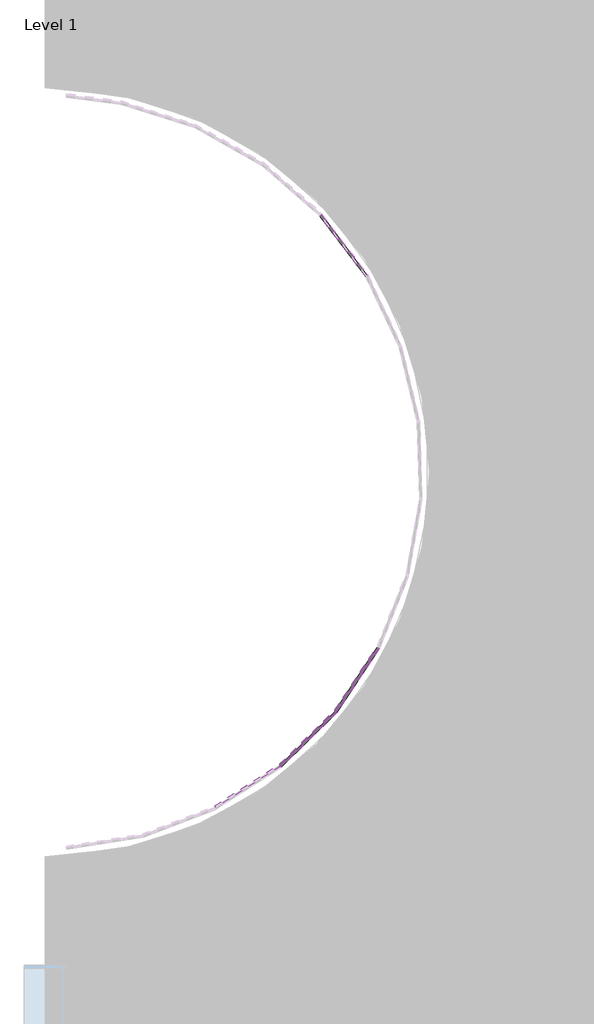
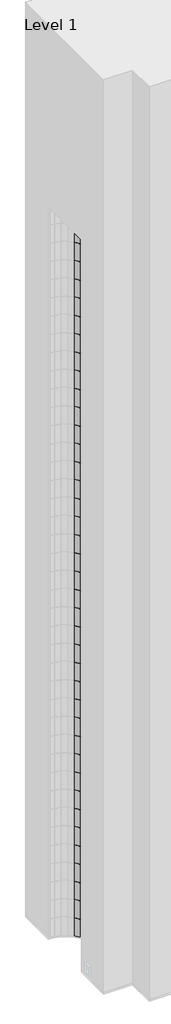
# One storey, part 3 of 20: 122 plates.
"""IFC4 building model written with IfcOpenShell, lengths in millimetres."""

from ifc_helpers import new_model, si_unit, origin, place, context, project, spatial, transform, mapped, element, save
from components import system_panel_glazed_d77d1ebf

model = new_model("IFC4")

# Units and contexts
model_context = context("Model", 3, world=origin())
ifc_project = project(units=[si_unit("LENGTHUNIT", "METRE", prefix="MILLI")], contexts=[model_context])

# Site, building, storey
site = spatial("IfcSite", under=ifc_project)
building = spatial("IfcBuilding", under=site)
storey = spatial("IfcBuildingStorey", under=building, Name="Level 1", Elevation=0.0)

# Plates
placement = place(None, origin())
system_panel_glazed_shape = system_panel_glazed_d77d1ebf(model_context)
element("IfcPlate", 1, ObjectType="System Panel : Glazed", at=placement, inside=storey, context=model_context, shape_type="MappedRepresentation", body=[
    mapped(system_panel_glazed_shape, transform((-8194.3790499, -3518.0259599, 0.0), x_axis=(-0.6035123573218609, 0.7973536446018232, 0.0), y_axis=(-0.7973536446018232, -0.6035123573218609, 0.0), z_axis=(0.0, 0.0, 1.0))),
])
element("IfcPlate", 2, ObjectType="System Panel : Glazed", at=placement, inside=storey, context=model_context, shape_type="MappedRepresentation", body=[
    mapped(system_panel_glazed_shape, transform((-8194.3790499, -3518.0259599, 3048.0), x_axis=(-0.6035123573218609, 0.7973536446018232, 0.0), y_axis=(-0.7973536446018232, -0.6035123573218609, 0.0), z_axis=(0.0, 0.0, 1.0))),
])
element("IfcPlate", 3, ObjectType="System Panel : Glazed", at=placement, inside=storey, context=model_context, shape_type="MappedRepresentation", body=[
    mapped(system_panel_glazed_shape, transform((-8194.3790499, -3518.0259599, 6096.0), x_axis=(-0.6035123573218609, 0.7973536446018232, 0.0), y_axis=(-0.7973536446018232, -0.6035123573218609, 0.0), z_axis=(0.0, 0.0, 1.0))),
])
element("IfcPlate", 4, ObjectType="System Panel : Glazed", at=placement, inside=storey, context=model_context, shape_type="MappedRepresentation", body=[
    mapped(system_panel_glazed_shape, transform((-8194.3790499, -3518.0259599, 9144.0), x_axis=(-0.6035123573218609, 0.7973536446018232, 0.0), y_axis=(-0.7973536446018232, -0.6035123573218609, 0.0), z_axis=(0.0, 0.0, 1.0))),
])
element("IfcPlate", 5, ObjectType="System Panel : Glazed", at=placement, inside=storey, context=model_context, shape_type="MappedRepresentation", body=[
    mapped(system_panel_glazed_shape, transform((-8194.3790499, -3518.0259599, 12192.0), x_axis=(-0.6035123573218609, 0.7973536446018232, 0.0), y_axis=(-0.7973536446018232, -0.6035123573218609, 0.0), z_axis=(0.0, 0.0, 1.0))),
])
element("IfcPlate", 6, ObjectType="System Panel : Glazed", at=placement, inside=storey, context=model_context, shape_type="MappedRepresentation", body=[
    mapped(system_panel_glazed_shape, transform((-8194.3790499, -3518.0259599, 15240.0), x_axis=(-0.6035123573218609, 0.7973536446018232, 0.0), y_axis=(-0.7973536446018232, -0.6035123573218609, 0.0), z_axis=(0.0, 0.0, 1.0))),
])
element("IfcPlate", 7, ObjectType="System Panel : Glazed", at=placement, inside=storey, context=model_context, shape_type="MappedRepresentation", body=[
    mapped(system_panel_glazed_shape, transform((-8194.3790499, -3518.0259599, 18288.0), x_axis=(-0.603512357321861, 0.7973536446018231, 0.0), y_axis=(-0.7973536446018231, -0.603512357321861, 0.0), z_axis=(0.0, 0.0, 1.0))),
])
element("IfcPlate", 8, ObjectType="System Panel : Glazed", at=placement, inside=storey, context=model_context, shape_type="MappedRepresentation", body=[
    mapped(system_panel_glazed_shape, transform((-8194.3790499, -3518.0259599, 21336.0), x_axis=(-0.6035123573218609, 0.7973536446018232, 0.0), y_axis=(-0.7973536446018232, -0.6035123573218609, 0.0), z_axis=(0.0, 0.0, 1.0))),
])
element("IfcPlate", 9, ObjectType="System Panel : Glazed", at=placement, inside=storey, context=model_context, shape_type="MappedRepresentation", body=[
    mapped(system_panel_glazed_shape, transform((-8194.3790499, -3518.0259599, 24384.0), x_axis=(-0.6035123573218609, 0.7973536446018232, 0.0), y_axis=(-0.7973536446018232, -0.6035123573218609, 0.0), z_axis=(0.0, 0.0, 1.0))),
])
element("IfcPlate", 10, ObjectType="System Panel : Glazed", at=placement, inside=storey, context=model_context, shape_type="MappedRepresentation", body=[
    mapped(system_panel_glazed_shape, transform((-8194.3790499, -3518.0259599, 27432.0), x_axis=(-0.6035123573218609, 0.7973536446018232, 0.0), y_axis=(-0.7973536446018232, -0.6035123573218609, 0.0), z_axis=(0.0, 0.0, 1.0))),
])
element("IfcPlate", 11, ObjectType="System Panel : Glazed", at=placement, inside=storey, context=model_context, shape_type="MappedRepresentation", body=[
    mapped(system_panel_glazed_shape, transform((-8194.3790499, -3518.0259599, 30480.0), x_axis=(-0.6035123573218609, 0.7973536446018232, 0.0), y_axis=(-0.7973536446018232, -0.6035123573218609, 0.0), z_axis=(0.0, 0.0, 1.0))),
])
element("IfcPlate", 12, ObjectType="System Panel : Glazed", at=placement, inside=storey, context=model_context, shape_type="MappedRepresentation", body=[
    mapped(system_panel_glazed_shape, transform((-8194.3790499, -3518.0259599, 33528.0), x_axis=(-0.6035123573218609, 0.7973536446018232, 0.0), y_axis=(-0.7973536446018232, -0.6035123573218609, 0.0), z_axis=(0.0, 0.0, 1.0))),
])
element("IfcPlate", 13, ObjectType="System Panel : Glazed", at=placement, inside=storey, context=model_context, shape_type="MappedRepresentation", body=[
    mapped(system_panel_glazed_shape, transform((-8194.3790499, -3518.0259599, 36576.0), x_axis=(-0.6035123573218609, 0.7973536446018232, 0.0), y_axis=(-0.7973536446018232, -0.6035123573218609, 0.0), z_axis=(0.0, 0.0, 1.0))),
])
element("IfcPlate", 14, ObjectType="System Panel : Glazed", at=placement, inside=storey, context=model_context, shape_type="MappedRepresentation", body=[
    mapped(system_panel_glazed_shape, transform((-8194.3790499, -3518.0259599, 39624.0), x_axis=(-0.6035123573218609, 0.7973536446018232, 0.0), y_axis=(-0.7973536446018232, -0.6035123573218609, 0.0), z_axis=(0.0, 0.0, 1.0))),
])
element("IfcPlate", 15, ObjectType="System Panel : Glazed", at=placement, inside=storey, context=model_context, shape_type="MappedRepresentation", body=[
    mapped(system_panel_glazed_shape, transform((-8194.3790499, -3518.0259599, 42672.0), x_axis=(-0.6035123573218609, 0.7973536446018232, 0.0), y_axis=(-0.7973536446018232, -0.6035123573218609, 0.0), z_axis=(0.0, 0.0, 1.0))),
])
element("IfcPlate", 16, ObjectType="System Panel : Glazed", at=placement, inside=storey, context=model_context, shape_type="MappedRepresentation", body=[
    mapped(system_panel_glazed_shape, transform((-8194.3790499, -3518.0259599, 45720.0), x_axis=(-0.6035123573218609, 0.7973536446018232, 0.0), y_axis=(-0.7973536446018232, -0.6035123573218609, 0.0), z_axis=(0.0, 0.0, 1.0))),
])
element("IfcPlate", 17, ObjectType="System Panel : Glazed", at=placement, inside=storey, context=model_context, shape_type="MappedRepresentation", body=[
    mapped(system_panel_glazed_shape, transform((-8194.3790499, -3518.0259599, 48768.0), x_axis=(-0.6035123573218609, 0.7973536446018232, 0.0), y_axis=(-0.7973536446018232, -0.6035123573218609, 0.0), z_axis=(0.0, 0.0, 1.0))),
])
element("IfcPlate", 18, ObjectType="System Panel : Glazed", at=placement, inside=storey, context=model_context, shape_type="MappedRepresentation", body=[
    mapped(system_panel_glazed_shape, transform((-8194.3790499, -3518.0259599, 51816.0), x_axis=(-0.6035123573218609, 0.7973536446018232, 0.0), y_axis=(-0.7973536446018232, -0.6035123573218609, 0.0), z_axis=(0.0, 0.0, 1.0))),
])
element("IfcPlate", 19, ObjectType="System Panel : Glazed", at=placement, inside=storey, context=model_context, shape_type="MappedRepresentation", body=[
    mapped(system_panel_glazed_shape, transform((-8194.3790499, -3518.0259599, 54864.0), x_axis=(-0.6035123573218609, 0.7973536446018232, 0.0), y_axis=(-0.7973536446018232, -0.6035123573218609, 0.0), z_axis=(0.0, 0.0, 1.0))),
])
element("IfcPlate", 20, ObjectType="System Panel : Glazed", at=placement, inside=storey, context=model_context, shape_type="MappedRepresentation", body=[
    mapped(system_panel_glazed_shape, transform((-8194.3790499, -3518.0259599, 57912.0), x_axis=(-0.6035123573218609, 0.7973536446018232, 0.0), y_axis=(-0.7973536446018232, -0.6035123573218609, 0.0), z_axis=(0.0, 0.0, 1.0))),
])
element("IfcPlate", 21, ObjectType="System Panel : Glazed", at=placement, inside=storey, context=model_context, shape_type="MappedRepresentation", body=[
    mapped(system_panel_glazed_shape, transform((-8194.3790499, -3518.0259599, 60960.0), x_axis=(-0.6035123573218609, 0.7973536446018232, 0.0), y_axis=(-0.7973536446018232, -0.6035123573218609, 0.0), z_axis=(0.0, 0.0, 1.0))),
])
element("IfcPlate", 22, ObjectType="System Panel : Glazed", at=placement, inside=storey, context=model_context, shape_type="MappedRepresentation", body=[
    mapped(system_panel_glazed_shape, transform((-8194.3790499, -3518.0259599, 64008.0), x_axis=(-0.6035123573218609, 0.7973536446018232, 0.0), y_axis=(-0.7973536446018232, -0.6035123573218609, 0.0), z_axis=(0.0, 0.0, 1.0))),
])
element("IfcPlate", 23, ObjectType="System Panel : Glazed", at=placement, inside=storey, context=model_context, shape_type="MappedRepresentation", body=[
    mapped(system_panel_glazed_shape, transform((-8194.3790499, -3518.0259599, 67056.0), x_axis=(-0.6035123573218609, 0.7973536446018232, 0.0), y_axis=(-0.7973536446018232, -0.6035123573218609, 0.0), z_axis=(0.0, 0.0, 1.0))),
])
element("IfcPlate", 24, ObjectType="System Panel : Glazed", at=placement, inside=storey, context=model_context, shape_type="MappedRepresentation", body=[
    mapped(system_panel_glazed_shape, transform((-8194.3790499, -3518.0259599, 70104.0), x_axis=(-0.6035123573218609, 0.7973536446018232, 0.0), y_axis=(-0.7973536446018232, -0.6035123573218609, 0.0), z_axis=(0.0, 0.0, 1.0))),
])
element("IfcPlate", 25, ObjectType="System Panel : Glazed", at=placement, inside=storey, context=model_context, shape_type="MappedRepresentation", body=[
    mapped(system_panel_glazed_shape, transform((-8194.3790499, -3518.0259599, 73152.0), x_axis=(-0.6035123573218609, 0.7973536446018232, 0.0), y_axis=(-0.7973536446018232, -0.6035123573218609, 0.0), z_axis=(0.0, 0.0, 1.0))),
])
element("IfcPlate", 26, ObjectType="System Panel : Glazed", at=placement, inside=storey, context=model_context, shape_type="MappedRepresentation", body=[
    mapped(system_panel_glazed_shape, transform((-8194.3790499, -3518.0259599, 76200.0), x_axis=(-0.6035123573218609, 0.7973536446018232, 0.0), y_axis=(-0.7973536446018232, -0.6035123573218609, 0.0), z_axis=(0.0, 0.0, 1.0))),
])
element("IfcPlate", 27, ObjectType="System Panel : Glazed", at=placement, inside=storey, context=model_context, shape_type="MappedRepresentation", body=[
    mapped(system_panel_glazed_shape, transform((-8194.3790499, -3518.0259599, 79248.0), x_axis=(-0.6035123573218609, 0.7973536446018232, 0.0), y_axis=(-0.7973536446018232, -0.6035123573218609, 0.0), z_axis=(0.0, 0.0, 1.0))),
])
element("IfcPlate", 28, ObjectType="System Panel : Glazed", at=placement, inside=storey, context=model_context, shape_type="MappedRepresentation", body=[
    mapped(system_panel_glazed_shape, transform((-8194.3790499, -3518.0259599, 82296.0), x_axis=(-0.6035123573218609, 0.7973536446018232, 0.0), y_axis=(-0.7973536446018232, -0.6035123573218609, 0.0), z_axis=(0.0, 0.0, 1.0))),
])
element("IfcPlate", 29, ObjectType="System Panel : Glazed", at=placement, inside=storey, context=model_context, shape_type="MappedRepresentation", body=[
    mapped(system_panel_glazed_shape, transform((-8194.3790499, -3518.0259599, 85344.0), x_axis=(-0.6035123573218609, 0.7973536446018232, 0.0), y_axis=(-0.7973536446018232, -0.6035123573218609, 0.0), z_axis=(0.0, 0.0, 1.0))),
])
element("IfcPlate", 30, ObjectType="System Panel : Glazed", at=placement, inside=storey, context=model_context, shape_type="MappedRepresentation", body=[
    mapped(system_panel_glazed_shape, transform((-8194.3790499, -3518.0259599, 88392.0), x_axis=(-0.6035123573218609, 0.7973536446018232, 0.0), y_axis=(-0.7973536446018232, -0.6035123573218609, 0.0), z_axis=(0.0, 0.0, 1.0))),
])
element("IfcPlate", 31, ObjectType="System Panel : Glazed", at=placement, inside=storey, context=model_context, shape_type="MappedRepresentation", body=[
    mapped(system_panel_glazed_shape, transform((-8194.3790499, -3518.0259599, 91440.0), x_axis=(-0.6035123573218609, 0.7973536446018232, 0.0), y_axis=(-0.7973536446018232, -0.6035123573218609, 0.0), z_axis=(0.0, 0.0, 1.0))),
])
element("IfcPlate", 32, ObjectType="System Panel : Glazed", at=placement, inside=storey, context=model_context, shape_type="MappedRepresentation", body=[
    mapped(system_panel_glazed_shape, transform((-8194.3790499, -3518.0259599, 94488.0), x_axis=(-0.6035123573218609, 0.7973536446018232, 0.0), y_axis=(-0.7973536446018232, -0.6035123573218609, 0.0), z_axis=(0.0, 0.0, 1.0))),
])
element("IfcPlate", 33, ObjectType="System Panel : Glazed", at=placement, inside=storey, context=model_context, shape_type="MappedRepresentation", body=[
    mapped(system_panel_glazed_shape, transform((-8194.3790499, -3518.0259599, 97536.0), x_axis=(-0.6035123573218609, 0.7973536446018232, 0.0), y_axis=(-0.7973536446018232, -0.6035123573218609, 0.0), z_axis=(0.0, 0.0, 1.0))),
])
element("IfcPlate", 34, ObjectType="System Panel : Glazed", at=placement, inside=storey, context=model_context, shape_type="MappedRepresentation", body=[
    mapped(system_panel_glazed_shape, transform((-8194.3790499, -3518.0259599, 100584.0), x_axis=(-0.6035123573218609, 0.7973536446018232, 0.0), y_axis=(-0.7973536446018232, -0.6035123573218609, 0.0), z_axis=(0.0, 0.0, 1.0))),
])
element("IfcPlate", 35, ObjectType="System Panel : Glazed", at=placement, inside=storey, context=model_context, shape_type="MappedRepresentation", body=[
    mapped(system_panel_glazed_shape, transform((-8040.0877164, -8641.5136948, 0.0), x_axis=(0.5544383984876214, 0.8322247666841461, 0.0), y_axis=(-0.8322247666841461, 0.5544383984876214, 0.0), z_axis=(0.0, 0.0, 1.0))),
])
element("IfcPlate", 36, ObjectType="System Panel : Glazed", at=placement, inside=storey, context=model_context, shape_type="MappedRepresentation", body=[
    mapped(system_panel_glazed_shape, transform((-8040.0877164, -8641.5136948, 3048.0), x_axis=(0.5544383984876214, 0.8322247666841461, 0.0), y_axis=(-0.8322247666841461, 0.5544383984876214, 0.0), z_axis=(0.0, 0.0, 1.0))),
])
element("IfcPlate", 37, ObjectType="System Panel : Glazed", at=placement, inside=storey, context=model_context, shape_type="MappedRepresentation", body=[
    mapped(system_panel_glazed_shape, transform((-8040.0877164, -8641.5136948, 6096.0), x_axis=(0.5544383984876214, 0.8322247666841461, 0.0), y_axis=(-0.8322247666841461, 0.5544383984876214, 0.0), z_axis=(0.0, 0.0, 1.0))),
])
element("IfcPlate", 38, ObjectType="System Panel : Glazed", at=placement, inside=storey, context=model_context, shape_type="MappedRepresentation", body=[
    mapped(system_panel_glazed_shape, transform((-8040.0877164, -8641.5136948, 9144.0), x_axis=(0.5544383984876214, 0.8322247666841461, 0.0), y_axis=(-0.8322247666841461, 0.5544383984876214, 0.0), z_axis=(0.0, 0.0, 1.0))),
])
element("IfcPlate", 39, ObjectType="System Panel : Glazed", at=placement, inside=storey, context=model_context, shape_type="MappedRepresentation", body=[
    mapped(system_panel_glazed_shape, transform((-8040.0877164, -8641.5136948, 12192.0), x_axis=(0.5544383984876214, 0.8322247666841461, 0.0), y_axis=(-0.8322247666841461, 0.5544383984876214, 0.0), z_axis=(0.0, 0.0, 1.0))),
])
element("IfcPlate", 40, ObjectType="System Panel : Glazed", at=placement, inside=storey, context=model_context, shape_type="MappedRepresentation", body=[
    mapped(system_panel_glazed_shape, transform((-8040.0877164, -8641.5136948, 15240.0), x_axis=(0.5544383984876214, 0.8322247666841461, 0.0), y_axis=(-0.8322247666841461, 0.5544383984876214, 0.0), z_axis=(0.0, 0.0, 1.0))),
])
element("IfcPlate", 41, ObjectType="System Panel : Glazed", at=placement, inside=storey, context=model_context, shape_type="MappedRepresentation", body=[
    mapped(system_panel_glazed_shape, transform((-8040.0877164, -8641.5136948, 18288.0), x_axis=(0.5544383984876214, 0.8322247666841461, 0.0), y_axis=(-0.8322247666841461, 0.5544383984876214, 0.0), z_axis=(0.0, 0.0, 1.0))),
])
element("IfcPlate", 42, ObjectType="System Panel : Glazed", at=placement, inside=storey, context=model_context, shape_type="MappedRepresentation", body=[
    mapped(system_panel_glazed_shape, transform((-8040.0877164, -8641.5136948, 21336.0), x_axis=(0.5544383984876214, 0.8322247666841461, 0.0), y_axis=(-0.8322247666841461, 0.5544383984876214, 0.0), z_axis=(0.0, 0.0, 1.0))),
])
element("IfcPlate", 43, ObjectType="System Panel : Glazed", at=placement, inside=storey, context=model_context, shape_type="MappedRepresentation", body=[
    mapped(system_panel_glazed_shape, transform((-8040.0877164, -8641.5136948, 24384.0), x_axis=(0.5544383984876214, 0.8322247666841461, 0.0), y_axis=(-0.8322247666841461, 0.5544383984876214, 0.0), z_axis=(0.0, 0.0, 1.0))),
])
element("IfcPlate", 44, ObjectType="System Panel : Glazed", at=placement, inside=storey, context=model_context, shape_type="MappedRepresentation", body=[
    mapped(system_panel_glazed_shape, transform((-8040.0877164, -8641.5136948, 27432.0), x_axis=(0.5544383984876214, 0.8322247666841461, 0.0), y_axis=(-0.8322247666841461, 0.5544383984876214, 0.0), z_axis=(0.0, 0.0, 1.0))),
])
element("IfcPlate", 45, ObjectType="System Panel : Glazed", at=placement, inside=storey, context=model_context, shape_type="MappedRepresentation", body=[
    mapped(system_panel_glazed_shape, transform((-8040.0877164, -8641.5136948, 30480.0), x_axis=(0.5544383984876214, 0.8322247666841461, 0.0), y_axis=(-0.8322247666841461, 0.5544383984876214, 0.0), z_axis=(0.0, 0.0, 1.0))),
])
element("IfcPlate", 46, ObjectType="System Panel : Glazed", at=placement, inside=storey, context=model_context, shape_type="MappedRepresentation", body=[
    mapped(system_panel_glazed_shape, transform((-8040.0877164, -8641.5136948, 33528.0), x_axis=(0.5544383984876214, 0.8322247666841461, 0.0), y_axis=(-0.8322247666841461, 0.5544383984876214, 0.0), z_axis=(0.0, 0.0, 1.0))),
])
element("IfcPlate", 47, ObjectType="System Panel : Glazed", at=placement, inside=storey, context=model_context, shape_type="MappedRepresentation", body=[
    mapped(system_panel_glazed_shape, transform((-8040.0877164, -8641.5136948, 36576.0), x_axis=(0.5544383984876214, 0.8322247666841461, 0.0), y_axis=(-0.8322247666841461, 0.5544383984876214, 0.0), z_axis=(0.0, 0.0, 1.0))),
])
element("IfcPlate", 48, ObjectType="System Panel : Glazed", at=placement, inside=storey, context=model_context, shape_type="MappedRepresentation", body=[
    mapped(system_panel_glazed_shape, transform((-8040.0877164, -8641.5136948, 39624.0), x_axis=(0.5544383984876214, 0.8322247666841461, 0.0), y_axis=(-0.8322247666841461, 0.5544383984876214, 0.0), z_axis=(0.0, 0.0, 1.0))),
])
element("IfcPlate", 49, ObjectType="System Panel : Glazed", at=placement, inside=storey, context=model_context, shape_type="MappedRepresentation", body=[
    mapped(system_panel_glazed_shape, transform((-8040.0877164, -8641.5136948, 42672.0), x_axis=(0.5544383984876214, 0.8322247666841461, 0.0), y_axis=(-0.8322247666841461, 0.5544383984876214, 0.0), z_axis=(0.0, 0.0, 1.0))),
])
element("IfcPlate", 50, ObjectType="System Panel : Glazed", at=placement, inside=storey, context=model_context, shape_type="MappedRepresentation", body=[
    mapped(system_panel_glazed_shape, transform((-8040.0877164, -8641.5136948, 45720.0), x_axis=(0.5544383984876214, 0.8322247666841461, 0.0), y_axis=(-0.8322247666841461, 0.5544383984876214, 0.0), z_axis=(0.0, 0.0, 1.0))),
])
element("IfcPlate", 51, ObjectType="System Panel : Glazed", at=placement, inside=storey, context=model_context, shape_type="MappedRepresentation", body=[
    mapped(system_panel_glazed_shape, transform((-8040.0877164, -8641.5136948, 48768.0), x_axis=(0.5544383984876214, 0.8322247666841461, 0.0), y_axis=(-0.8322247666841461, 0.5544383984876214, 0.0), z_axis=(0.0, 0.0, 1.0))),
])
element("IfcPlate", 52, ObjectType="System Panel : Glazed", at=placement, inside=storey, context=model_context, shape_type="MappedRepresentation", body=[
    mapped(system_panel_glazed_shape, transform((-8040.0877164, -8641.5136948, 51816.0), x_axis=(0.5544383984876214, 0.8322247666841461, 0.0), y_axis=(-0.8322247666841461, 0.5544383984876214, 0.0), z_axis=(0.0, 0.0, 1.0))),
])
element("IfcPlate", 53, ObjectType="System Panel : Glazed", at=placement, inside=storey, context=model_context, shape_type="MappedRepresentation", body=[
    mapped(system_panel_glazed_shape, transform((-8040.0877164, -8641.5136948, 54864.0), x_axis=(0.5544383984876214, 0.8322247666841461, 0.0), y_axis=(-0.8322247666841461, 0.5544383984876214, 0.0), z_axis=(0.0, 0.0, 1.0))),
])
element("IfcPlate", 54, ObjectType="System Panel : Glazed", at=placement, inside=storey, context=model_context, shape_type="MappedRepresentation", body=[
    mapped(system_panel_glazed_shape, transform((-8040.0877164, -8641.5136948, 57912.0), x_axis=(0.5544383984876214, 0.8322247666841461, 0.0), y_axis=(-0.8322247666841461, 0.5544383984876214, 0.0), z_axis=(0.0, 0.0, 1.0))),
])
element("IfcPlate", 55, ObjectType="System Panel : Glazed", at=placement, inside=storey, context=model_context, shape_type="MappedRepresentation", body=[
    mapped(system_panel_glazed_shape, transform((-8040.0877164, -8641.5136948, 60960.0), x_axis=(0.5544383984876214, 0.8322247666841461, 0.0), y_axis=(-0.8322247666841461, 0.5544383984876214, 0.0), z_axis=(0.0, 0.0, 1.0))),
])
element("IfcPlate", 56, ObjectType="System Panel : Glazed", at=placement, inside=storey, context=model_context, shape_type="MappedRepresentation", body=[
    mapped(system_panel_glazed_shape, transform((-8040.0877164, -8641.5136948, 64008.0), x_axis=(0.5544383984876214, 0.8322247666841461, 0.0), y_axis=(-0.8322247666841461, 0.5544383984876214, 0.0), z_axis=(0.0, 0.0, 1.0))),
])
element("IfcPlate", 57, ObjectType="System Panel : Glazed", at=placement, inside=storey, context=model_context, shape_type="MappedRepresentation", body=[
    mapped(system_panel_glazed_shape, transform((-8040.0877164, -8641.5136948, 67056.0), x_axis=(0.5544383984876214, 0.8322247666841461, 0.0), y_axis=(-0.8322247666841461, 0.5544383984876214, 0.0), z_axis=(0.0, 0.0, 1.0))),
])
element("IfcPlate", 58, ObjectType="System Panel : Glazed", at=placement, inside=storey, context=model_context, shape_type="MappedRepresentation", body=[
    mapped(system_panel_glazed_shape, transform((-8040.0877164, -8641.5136948, 70104.0), x_axis=(0.5544383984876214, 0.8322247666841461, 0.0), y_axis=(-0.8322247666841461, 0.5544383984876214, 0.0), z_axis=(0.0, 0.0, 1.0))),
])
element("IfcPlate", 59, ObjectType="System Panel : Glazed", at=placement, inside=storey, context=model_context, shape_type="MappedRepresentation", body=[
    mapped(system_panel_glazed_shape, transform((-8040.0877164, -8641.5136948, 73152.0), x_axis=(0.5544383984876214, 0.8322247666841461, 0.0), y_axis=(-0.8322247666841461, 0.5544383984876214, 0.0), z_axis=(0.0, 0.0, 1.0))),
])
element("IfcPlate", 60, ObjectType="System Panel : Glazed", at=placement, inside=storey, context=model_context, shape_type="MappedRepresentation", body=[
    mapped(system_panel_glazed_shape, transform((-8040.0877164, -8641.5136948, 76200.0), x_axis=(0.5544383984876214, 0.8322247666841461, 0.0), y_axis=(-0.8322247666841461, 0.5544383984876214, 0.0), z_axis=(0.0, 0.0, 1.0))),
])
element("IfcPlate", 61, ObjectType="System Panel : Glazed", at=placement, inside=storey, context=model_context, shape_type="MappedRepresentation", body=[
    mapped(system_panel_glazed_shape, transform((-8040.0877164, -8641.5136948, 79248.0), x_axis=(0.5544383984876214, 0.8322247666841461, 0.0), y_axis=(-0.8322247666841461, 0.5544383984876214, 0.0), z_axis=(0.0, 0.0, 1.0))),
])
element("IfcPlate", 62, ObjectType="System Panel : Glazed", at=placement, inside=storey, context=model_context, shape_type="MappedRepresentation", body=[
    mapped(system_panel_glazed_shape, transform((-8040.0877164, -8641.5136948, 82296.0), x_axis=(0.5544383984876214, 0.8322247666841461, 0.0), y_axis=(-0.8322247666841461, 0.5544383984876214, 0.0), z_axis=(0.0, 0.0, 1.0))),
])
element("IfcPlate", 63, ObjectType="System Panel : Glazed", at=placement, inside=storey, context=model_context, shape_type="MappedRepresentation", body=[
    mapped(system_panel_glazed_shape, transform((-8040.0877164, -8641.5136948, 85344.0), x_axis=(0.5544383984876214, 0.8322247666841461, 0.0), y_axis=(-0.8322247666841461, 0.5544383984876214, 0.0), z_axis=(0.0, 0.0, 1.0))),
])
element("IfcPlate", 64, ObjectType="System Panel : Glazed", at=placement, inside=storey, context=model_context, shape_type="MappedRepresentation", body=[
    mapped(system_panel_glazed_shape, transform((-8040.0877164, -8641.5136948, 88392.0), x_axis=(0.5544383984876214, 0.8322247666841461, 0.0), y_axis=(-0.8322247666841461, 0.5544383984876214, 0.0), z_axis=(0.0, 0.0, 1.0))),
])
element("IfcPlate", 65, ObjectType="System Panel : Glazed", at=placement, inside=storey, context=model_context, shape_type="MappedRepresentation", body=[
    mapped(system_panel_glazed_shape, transform((-8040.0877164, -8641.5136948, 91440.0), x_axis=(0.5544383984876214, 0.8322247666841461, 0.0), y_axis=(-0.8322247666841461, 0.5544383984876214, 0.0), z_axis=(0.0, 0.0, 1.0))),
])
element("IfcPlate", 66, ObjectType="System Panel : Glazed", at=placement, inside=storey, context=model_context, shape_type="MappedRepresentation", body=[
    mapped(system_panel_glazed_shape, transform((-8040.0877164, -8641.5136948, 94488.0), x_axis=(0.5544383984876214, 0.8322247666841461, 0.0), y_axis=(-0.8322247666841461, 0.5544383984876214, 0.0), z_axis=(0.0, 0.0, 1.0))),
])
element("IfcPlate", 67, ObjectType="System Panel : Glazed", at=placement, inside=storey, context=model_context, shape_type="MappedRepresentation", body=[
    mapped(system_panel_glazed_shape, transform((-8040.0877164, -8641.5136948, 97536.0), x_axis=(0.5544383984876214, 0.8322247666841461, 0.0), y_axis=(-0.8322247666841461, 0.5544383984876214, 0.0), z_axis=(0.0, 0.0, 1.0))),
])
element("IfcPlate", 68, ObjectType="System Panel : Glazed", at=placement, inside=storey, context=model_context, shape_type="MappedRepresentation", body=[
    mapped(system_panel_glazed_shape, transform((-8040.0877164, -8641.5136948, 100584.0), x_axis=(0.5544383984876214, 0.8322247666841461, 0.0), y_axis=(-0.8322247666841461, 0.5544383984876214, 0.0), z_axis=(0.0, 0.0, 1.0))),
])
element("IfcPlate", 69, ObjectType="System Panel : Glazed", at=placement, inside=storey, context=model_context, shape_type="MappedRepresentation", body=[
    mapped(system_panel_glazed_shape, transform((-8619.5129682, -9342.6274336, 0.0), x_axis=(0.7128959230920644, 0.7012698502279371, 0.0), y_axis=(-0.7012698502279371, 0.7128959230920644, 0.0), z_axis=(0.0, 0.0, 1.0))),
])
element("IfcPlate", 70, ObjectType="System Panel : Glazed", at=placement, inside=storey, context=model_context, shape_type="MappedRepresentation", body=[
    mapped(system_panel_glazed_shape, transform((-8619.5129682, -9342.6274336, 3048.0), x_axis=(0.7128959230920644, 0.7012698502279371, 0.0), y_axis=(-0.7012698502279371, 0.7128959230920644, 0.0), z_axis=(0.0, 0.0, 1.0))),
])
element("IfcPlate", 71, ObjectType="System Panel : Glazed", at=placement, inside=storey, context=model_context, shape_type="MappedRepresentation", body=[
    mapped(system_panel_glazed_shape, transform((-8619.5129682, -9342.6274336, 6096.0), x_axis=(0.7128959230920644, 0.7012698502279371, 0.0), y_axis=(-0.7012698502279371, 0.7128959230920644, 0.0), z_axis=(0.0, 0.0, 1.0))),
])
element("IfcPlate", 72, ObjectType="System Panel : Glazed", at=placement, inside=storey, context=model_context, shape_type="MappedRepresentation", body=[
    mapped(system_panel_glazed_shape, transform((-8619.5129682, -9342.6274336, 9144.0), x_axis=(0.7128959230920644, 0.7012698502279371, 0.0), y_axis=(-0.7012698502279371, 0.7128959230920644, 0.0), z_axis=(0.0, 0.0, 1.0))),
])
element("IfcPlate", 73, ObjectType="System Panel : Glazed", at=placement, inside=storey, context=model_context, shape_type="MappedRepresentation", body=[
    mapped(system_panel_glazed_shape, transform((-8619.5129682, -9342.6274336, 12192.0), x_axis=(0.7128959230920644, 0.7012698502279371, 0.0), y_axis=(-0.7012698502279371, 0.7128959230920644, 0.0), z_axis=(0.0, 0.0, 1.0))),
])
element("IfcPlate", 74, ObjectType="System Panel : Glazed", at=placement, inside=storey, context=model_context, shape_type="MappedRepresentation", body=[
    mapped(system_panel_glazed_shape, transform((-8619.5129682, -9342.6274336, 15240.0), x_axis=(0.7128959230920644, 0.7012698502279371, 0.0), y_axis=(-0.7012698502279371, 0.7128959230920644, 0.0), z_axis=(0.0, 0.0, 1.0))),
])
element("IfcPlate", 75, ObjectType="System Panel : Glazed", at=placement, inside=storey, context=model_context, shape_type="MappedRepresentation", body=[
    mapped(system_panel_glazed_shape, transform((-8619.5129682, -9342.6274336, 18288.0), x_axis=(0.7128959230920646, 0.7012698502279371, 0.0), y_axis=(-0.7012698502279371, 0.7128959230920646, 0.0), z_axis=(0.0, 0.0, 1.0))),
])
element("IfcPlate", 76, ObjectType="System Panel : Glazed", at=placement, inside=storey, context=model_context, shape_type="MappedRepresentation", body=[
    mapped(system_panel_glazed_shape, transform((-8619.5129682, -9342.6274336, 21336.0), x_axis=(0.7128959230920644, 0.7012698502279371, 0.0), y_axis=(-0.7012698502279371, 0.7128959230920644, 0.0), z_axis=(0.0, 0.0, 1.0))),
])
element("IfcPlate", 77, ObjectType="System Panel : Glazed", at=placement, inside=storey, context=model_context, shape_type="MappedRepresentation", body=[
    mapped(system_panel_glazed_shape, transform((-8619.5129682, -9342.6274336, 24384.0), x_axis=(0.7128959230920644, 0.7012698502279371, 0.0), y_axis=(-0.7012698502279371, 0.7128959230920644, 0.0), z_axis=(0.0, 0.0, 1.0))),
])
element("IfcPlate", 78, ObjectType="System Panel : Glazed", at=placement, inside=storey, context=model_context, shape_type="MappedRepresentation", body=[
    mapped(system_panel_glazed_shape, transform((-8619.5129682, -9342.6274336, 27432.0), x_axis=(0.7128959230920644, 0.7012698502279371, 0.0), y_axis=(-0.7012698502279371, 0.7128959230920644, 0.0), z_axis=(0.0, 0.0, 1.0))),
])
element("IfcPlate", 79, ObjectType="System Panel : Glazed", at=placement, inside=storey, context=model_context, shape_type="MappedRepresentation", body=[
    mapped(system_panel_glazed_shape, transform((-8619.5129682, -9342.6274336, 30480.0), x_axis=(0.7128959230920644, 0.7012698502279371, 0.0), y_axis=(-0.7012698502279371, 0.7128959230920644, 0.0), z_axis=(0.0, 0.0, 1.0))),
])
element("IfcPlate", 80, ObjectType="System Panel : Glazed", at=placement, inside=storey, context=model_context, shape_type="MappedRepresentation", body=[
    mapped(system_panel_glazed_shape, transform((-8619.5129682, -9342.6274336, 33528.0), x_axis=(0.7128959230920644, 0.7012698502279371, 0.0), y_axis=(-0.7012698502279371, 0.7128959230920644, 0.0), z_axis=(0.0, 0.0, 1.0))),
])
element("IfcPlate", 81, ObjectType="System Panel : Glazed", at=placement, inside=storey, context=model_context, shape_type="MappedRepresentation", body=[
    mapped(system_panel_glazed_shape, transform((-8619.5129682, -9342.6274336, 36576.0), x_axis=(0.7128959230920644, 0.7012698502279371, 0.0), y_axis=(-0.7012698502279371, 0.7128959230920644, 0.0), z_axis=(0.0, 0.0, 1.0))),
])
element("IfcPlate", 82, ObjectType="System Panel : Glazed", at=placement, inside=storey, context=model_context, shape_type="MappedRepresentation", body=[
    mapped(system_panel_glazed_shape, transform((-8619.5129682, -9342.6274336, 39624.0), x_axis=(0.7128959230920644, 0.7012698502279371, 0.0), y_axis=(-0.7012698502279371, 0.7128959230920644, 0.0), z_axis=(0.0, 0.0, 1.0))),
])
element("IfcPlate", 83, ObjectType="System Panel : Glazed", at=placement, inside=storey, context=model_context, shape_type="MappedRepresentation", body=[
    mapped(system_panel_glazed_shape, transform((-8619.5129682, -9342.6274336, 42672.0), x_axis=(0.7128959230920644, 0.7012698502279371, 0.0), y_axis=(-0.7012698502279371, 0.7128959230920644, 0.0), z_axis=(0.0, 0.0, 1.0))),
])
element("IfcPlate", 84, ObjectType="System Panel : Glazed", at=placement, inside=storey, context=model_context, shape_type="MappedRepresentation", body=[
    mapped(system_panel_glazed_shape, transform((-8619.5129682, -9342.6274336, 45720.0), x_axis=(0.7128959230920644, 0.7012698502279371, 0.0), y_axis=(-0.7012698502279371, 0.7128959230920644, 0.0), z_axis=(0.0, 0.0, 1.0))),
])
element("IfcPlate", 85, ObjectType="System Panel : Glazed", at=placement, inside=storey, context=model_context, shape_type="MappedRepresentation", body=[
    mapped(system_panel_glazed_shape, transform((-8619.5129682, -9342.6274336, 48768.0), x_axis=(0.7128959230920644, 0.7012698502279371, 0.0), y_axis=(-0.7012698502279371, 0.7128959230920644, 0.0), z_axis=(0.0, 0.0, 1.0))),
])
element("IfcPlate", 86, ObjectType="System Panel : Glazed", at=placement, inside=storey, context=model_context, shape_type="MappedRepresentation", body=[
    mapped(system_panel_glazed_shape, transform((-8619.5129682, -9342.6274336, 51816.0), x_axis=(0.7128959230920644, 0.7012698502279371, 0.0), y_axis=(-0.7012698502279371, 0.7128959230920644, 0.0), z_axis=(0.0, 0.0, 1.0))),
])
element("IfcPlate", 87, ObjectType="System Panel : Glazed", at=placement, inside=storey, context=model_context, shape_type="MappedRepresentation", body=[
    mapped(system_panel_glazed_shape, transform((-8619.5129682, -9342.6274336, 54864.0), x_axis=(0.7128959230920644, 0.7012698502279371, 0.0), y_axis=(-0.7012698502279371, 0.7128959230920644, 0.0), z_axis=(0.0, 0.0, 1.0))),
])
element("IfcPlate", 88, ObjectType="System Panel : Glazed", at=placement, inside=storey, context=model_context, shape_type="MappedRepresentation", body=[
    mapped(system_panel_glazed_shape, transform((-8619.5129682, -9342.6274336, 57912.0), x_axis=(0.7128959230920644, 0.7012698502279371, 0.0), y_axis=(-0.7012698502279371, 0.7128959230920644, 0.0), z_axis=(0.0, 0.0, 1.0))),
])
element("IfcPlate", 89, ObjectType="System Panel : Glazed", at=placement, inside=storey, context=model_context, shape_type="MappedRepresentation", body=[
    mapped(system_panel_glazed_shape, transform((-8619.5129682, -9342.6274336, 60960.0), x_axis=(0.7128959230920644, 0.7012698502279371, 0.0), y_axis=(-0.7012698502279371, 0.7128959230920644, 0.0), z_axis=(0.0, 0.0, 1.0))),
])
element("IfcPlate", 90, ObjectType="System Panel : Glazed", at=placement, inside=storey, context=model_context, shape_type="MappedRepresentation", body=[
    mapped(system_panel_glazed_shape, transform((-8619.5129682, -9342.6274336, 64008.0), x_axis=(0.7128959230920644, 0.7012698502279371, 0.0), y_axis=(-0.7012698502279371, 0.7128959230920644, 0.0), z_axis=(0.0, 0.0, 1.0))),
])
element("IfcPlate", 91, ObjectType="System Panel : Glazed", at=placement, inside=storey, context=model_context, shape_type="MappedRepresentation", body=[
    mapped(system_panel_glazed_shape, transform((-8619.5129682, -9342.6274336, 67056.0), x_axis=(0.7128959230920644, 0.7012698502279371, 0.0), y_axis=(-0.7012698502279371, 0.7128959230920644, 0.0), z_axis=(0.0, 0.0, 1.0))),
])
element("IfcPlate", 92, ObjectType="System Panel : Glazed", at=placement, inside=storey, context=model_context, shape_type="MappedRepresentation", body=[
    mapped(system_panel_glazed_shape, transform((-8619.5129682, -9342.6274336, 70104.0), x_axis=(0.7128959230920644, 0.7012698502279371, 0.0), y_axis=(-0.7012698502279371, 0.7128959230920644, 0.0), z_axis=(0.0, 0.0, 1.0))),
])
element("IfcPlate", 93, ObjectType="System Panel : Glazed", at=placement, inside=storey, context=model_context, shape_type="MappedRepresentation", body=[
    mapped(system_panel_glazed_shape, transform((-8619.5129682, -9342.6274336, 73152.0), x_axis=(0.7128959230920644, 0.7012698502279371, 0.0), y_axis=(-0.7012698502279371, 0.7128959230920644, 0.0), z_axis=(0.0, 0.0, 1.0))),
])
element("IfcPlate", 94, ObjectType="System Panel : Glazed", at=placement, inside=storey, context=model_context, shape_type="MappedRepresentation", body=[
    mapped(system_panel_glazed_shape, transform((-8619.5129682, -9342.6274336, 76200.0), x_axis=(0.7128959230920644, 0.7012698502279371, 0.0), y_axis=(-0.7012698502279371, 0.7128959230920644, 0.0), z_axis=(0.0, 0.0, 1.0))),
])
element("IfcPlate", 95, ObjectType="System Panel : Glazed", at=placement, inside=storey, context=model_context, shape_type="MappedRepresentation", body=[
    mapped(system_panel_glazed_shape, transform((-8619.5129682, -9342.6274336, 79248.0), x_axis=(0.7128959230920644, 0.7012698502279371, 0.0), y_axis=(-0.7012698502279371, 0.7128959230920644, 0.0), z_axis=(0.0, 0.0, 1.0))),
])
element("IfcPlate", 96, ObjectType="System Panel : Glazed", at=placement, inside=storey, context=model_context, shape_type="MappedRepresentation", body=[
    mapped(system_panel_glazed_shape, transform((-8619.5129682, -9342.6274336, 82296.0), x_axis=(0.7128959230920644, 0.7012698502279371, 0.0), y_axis=(-0.7012698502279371, 0.7128959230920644, 0.0), z_axis=(0.0, 0.0, 1.0))),
])
element("IfcPlate", 97, ObjectType="System Panel : Glazed", at=placement, inside=storey, context=model_context, shape_type="MappedRepresentation", body=[
    mapped(system_panel_glazed_shape, transform((-8619.5129682, -9342.6274336, 85344.0), x_axis=(0.7128959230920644, 0.7012698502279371, 0.0), y_axis=(-0.7012698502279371, 0.7128959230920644, 0.0), z_axis=(0.0, 0.0, 1.0))),
])
element("IfcPlate", 98, ObjectType="System Panel : Glazed", at=placement, inside=storey, context=model_context, shape_type="MappedRepresentation", body=[
    mapped(system_panel_glazed_shape, transform((-8619.5129682, -9342.6274336, 88392.0), x_axis=(0.7128959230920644, 0.7012698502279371, 0.0), y_axis=(-0.7012698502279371, 0.7128959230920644, 0.0), z_axis=(0.0, 0.0, 1.0))),
])
element("IfcPlate", 99, ObjectType="System Panel : Glazed", at=placement, inside=storey, context=model_context, shape_type="MappedRepresentation", body=[
    mapped(system_panel_glazed_shape, transform((-8619.5129682, -9342.6274336, 91440.0), x_axis=(0.7128959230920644, 0.7012698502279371, 0.0), y_axis=(-0.7012698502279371, 0.7128959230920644, 0.0), z_axis=(0.0, 0.0, 1.0))),
])
element("IfcPlate", 100, ObjectType="System Panel : Glazed", at=placement, inside=storey, context=model_context, shape_type="MappedRepresentation", body=[
    mapped(system_panel_glazed_shape, transform((-8619.5129682, -9342.6274336, 94488.0), x_axis=(0.7128959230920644, 0.7012698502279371, 0.0), y_axis=(-0.7012698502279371, 0.7128959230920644, 0.0), z_axis=(0.0, 0.0, 1.0))),
])
element("IfcPlate", 101, ObjectType="System Panel : Glazed", at=placement, inside=storey, context=model_context, shape_type="MappedRepresentation", body=[
    mapped(system_panel_glazed_shape, transform((-8619.5129682, -9342.6274336, 97536.0), x_axis=(0.7128959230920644, 0.7012698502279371, 0.0), y_axis=(-0.7012698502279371, 0.7128959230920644, 0.0), z_axis=(0.0, 0.0, 1.0))),
])
element("IfcPlate", 102, ObjectType="System Panel : Glazed", at=placement, inside=storey, context=model_context, shape_type="MappedRepresentation", body=[
    mapped(system_panel_glazed_shape, transform((-8619.5129682, -9342.6274336, 100584.0), x_axis=(0.7128959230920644, 0.7012698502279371, 0.0), y_axis=(-0.7012698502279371, 0.7128959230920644, 0.0), z_axis=(0.0, 0.0, 1.0))),
])
element("IfcPlate", 103, ObjectType="System Panel : Glazed", at=placement, inside=storey, context=model_context, shape_type="MappedRepresentation", body=[
    mapped(system_panel_glazed_shape, transform((-8040.0877164, -8641.5136948, 103632.0), x_axis=(0.5544383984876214, 0.8322247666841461, 0.0), y_axis=(-0.8322247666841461, 0.5544383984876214, 0.0), z_axis=(0.0, 0.0, 1.0))),
])
element("IfcPlate", 104, ObjectType="System Panel : Glazed", at=placement, inside=storey, context=model_context, shape_type="MappedRepresentation", body=[
    mapped(system_panel_glazed_shape, transform((-8619.5129682, -9342.6274336, 103632.0), x_axis=(0.7128959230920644, 0.7012698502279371, 0.0), y_axis=(-0.7012698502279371, 0.7128959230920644, 0.0), z_axis=(0.0, 0.0, 1.0))),
])
element("IfcPlate", 105, ObjectType="System Panel : Glazed", at=placement, inside=storey, context=model_context, shape_type="MappedRepresentation", body=[
    mapped(system_panel_glazed_shape, transform((-8194.3790499, -3518.0259599, 103632.0), x_axis=(-0.6035123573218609, 0.7973536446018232, 0.0), y_axis=(-0.7973536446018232, -0.6035123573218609, 0.0), z_axis=(0.0, 0.0, 1.0))),
])
element("IfcPlate", 106, ObjectType="System Panel : Glazed", at=placement, inside=storey, context=model_context, shape_type="MappedRepresentation", body=[
    mapped(system_panel_glazed_shape, transform((-8040.0877164, -8641.5136948, 106680.0), x_axis=(0.5544383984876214, 0.8322247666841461, 0.0), y_axis=(-0.8322247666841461, 0.5544383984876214, 0.0), z_axis=(0.0, 0.0, 1.0))),
])
element("IfcPlate", 107, ObjectType="System Panel : Glazed", at=placement, inside=storey, context=model_context, shape_type="MappedRepresentation", body=[
    mapped(system_panel_glazed_shape, transform((-8619.5129682, -9342.6274336, 106680.0), x_axis=(0.7128959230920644, 0.7012698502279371, 0.0), y_axis=(-0.7012698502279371, 0.7128959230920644, 0.0), z_axis=(0.0, 0.0, 1.0))),
])
element("IfcPlate", 108, ObjectType="System Panel : Glazed", at=placement, inside=storey, context=model_context, shape_type="MappedRepresentation", body=[
    mapped(system_panel_glazed_shape, transform((-8194.3790499, -3518.0259599, 106680.0), x_axis=(-0.6035123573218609, 0.7973536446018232, 0.0), y_axis=(-0.7973536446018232, -0.6035123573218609, 0.0), z_axis=(0.0, 0.0, 1.0))),
])
element("IfcPlate", 109, ObjectType="System Panel : Glazed", at=placement, inside=storey, context=model_context, shape_type="MappedRepresentation", body=[
    mapped(system_panel_glazed_shape, transform((-8040.0877164, -8641.5136948, 109728.0), x_axis=(0.5544383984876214, 0.8322247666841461, 0.0), y_axis=(-0.8322247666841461, 0.5544383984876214, 0.0), z_axis=(0.0, 0.0, 1.0))),
])
element("IfcPlate", 110, ObjectType="System Panel : Glazed", at=placement, inside=storey, context=model_context, shape_type="MappedRepresentation", body=[
    mapped(system_panel_glazed_shape, transform((-8619.5129682, -9342.6274336, 109728.0), x_axis=(0.7128959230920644, 0.7012698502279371, 0.0), y_axis=(-0.7012698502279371, 0.7128959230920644, 0.0), z_axis=(0.0, 0.0, 1.0))),
])
element("IfcPlate", 111, ObjectType="System Panel : Glazed", at=placement, inside=storey, context=model_context, shape_type="MappedRepresentation", body=[
    mapped(system_panel_glazed_shape, transform((-8194.3790499, -3518.0259599, 109728.0), x_axis=(-0.6035123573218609, 0.7973536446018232, 0.0), y_axis=(-0.7973536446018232, -0.6035123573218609, 0.0), z_axis=(0.0, 0.0, 1.0))),
])
element("IfcPlate", 112, ObjectType="System Panel : Glazed", at=placement, inside=storey, context=model_context, shape_type="MappedRepresentation", body=[
    mapped(system_panel_glazed_shape, transform((-8040.0877164, -8641.5136948, 112776.0), x_axis=(0.5544383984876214, 0.8322247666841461, 0.0), y_axis=(-0.8322247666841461, 0.5544383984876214, 0.0), z_axis=(0.0, 0.0, 1.0))),
])
element("IfcPlate", 113, ObjectType="System Panel : Glazed", at=placement, inside=storey, context=model_context, shape_type="MappedRepresentation", body=[
    mapped(system_panel_glazed_shape, transform((-8619.5129682, -9342.6274336, 112776.0), x_axis=(0.7128959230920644, 0.7012698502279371, 0.0), y_axis=(-0.7012698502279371, 0.7128959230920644, 0.0), z_axis=(0.0, 0.0, 1.0))),
])
element("IfcPlate", 114, ObjectType="System Panel : Glazed", at=placement, inside=storey, context=model_context, shape_type="MappedRepresentation", body=[
    mapped(system_panel_glazed_shape, transform((-9330.0583838, -9910.4472199, 112776.0), x_axis=(0.8412279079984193, 0.5406806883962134, 0.0), y_axis=(-0.5406806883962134, 0.8412279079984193, 0.0), z_axis=(0.0, 0.0, 1.0))),
])
element("IfcPlate", 115, ObjectType="System Panel : Glazed", at=placement, inside=storey, context=model_context, shape_type="MappedRepresentation", body=[
    mapped(system_panel_glazed_shape, transform((-8194.3790499, -3518.0259599, 112776.0), x_axis=(-0.6035123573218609, 0.7973536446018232, 0.0), y_axis=(-0.7973536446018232, -0.6035123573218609, 0.0), z_axis=(0.0, 0.0, 1.0))),
])
element("IfcPlate", 116, ObjectType="System Panel : Glazed", at=placement, inside=storey, context=model_context, shape_type="MappedRepresentation", body=[
    mapped(system_panel_glazed_shape, transform((-8040.0877164, -8641.5136948, 115824.0), x_axis=(0.5544383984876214, 0.8322247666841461, 0.0), y_axis=(-0.8322247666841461, 0.5544383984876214, 0.0), z_axis=(0.0, 0.0, 1.0))),
])
element("IfcPlate", 117, ObjectType="System Panel : Glazed", at=placement, inside=storey, context=model_context, shape_type="MappedRepresentation", body=[
    mapped(system_panel_glazed_shape, transform((-8619.5129682, -9342.6274336, 115824.0), x_axis=(0.7128959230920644, 0.7012698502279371, 0.0), y_axis=(-0.7012698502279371, 0.7128959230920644, 0.0), z_axis=(0.0, 0.0, 1.0))),
])
element("IfcPlate", 118, ObjectType="System Panel : Glazed", at=placement, inside=storey, context=model_context, shape_type="MappedRepresentation", body=[
    mapped(system_panel_glazed_shape, transform((-9330.0583838, -9910.4472199, 115824.0), x_axis=(0.8412279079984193, 0.5406806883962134, 0.0), y_axis=(-0.5406806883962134, 0.8412279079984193, 0.0), z_axis=(0.0, 0.0, 1.0))),
])
element("IfcPlate", 119, ObjectType="System Panel : Glazed", at=placement, inside=storey, context=model_context, shape_type="MappedRepresentation", body=[
    mapped(system_panel_glazed_shape, transform((-8194.3790499, -3518.0259599, 115824.0), x_axis=(-0.6035123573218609, 0.7973536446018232, 0.0), y_axis=(-0.7973536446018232, -0.6035123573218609, 0.0), z_axis=(0.0, 0.0, 1.0))),
])
element("IfcPlate", 120, ObjectType="System Panel : Glazed", at=placement, inside=storey, context=model_context, shape_type="MappedRepresentation", body=[
    mapped(system_panel_glazed_shape, transform((-8040.0877164, -8641.5136948, 118872.0), x_axis=(0.5544383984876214, 0.8322247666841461, 0.0), y_axis=(-0.8322247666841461, 0.5544383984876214, 0.0), z_axis=(0.0, 0.0, 1.0))),
])
element("IfcPlate", 121, ObjectType="System Panel : Glazed", at=placement, inside=storey, context=model_context, shape_type="MappedRepresentation", body=[
    mapped(system_panel_glazed_shape, transform((-8619.5129682, -9342.6274336, 118872.0), x_axis=(0.7128959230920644, 0.7012698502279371, 0.0), y_axis=(-0.7012698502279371, 0.7128959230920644, 0.0), z_axis=(0.0, 0.0, 1.0))),
])
element("IfcPlate", 122, ObjectType="System Panel : Glazed", at=placement, inside=storey, context=model_context, shape_type="MappedRepresentation", body=[
    mapped(system_panel_glazed_shape, transform((-9330.0583838, -9910.4472199, 118872.0), x_axis=(0.8412279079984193, 0.5406806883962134, 0.0), y_axis=(-0.5406806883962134, 0.8412279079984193, 0.0), z_axis=(0.0, 0.0, 1.0))),
])

save(model, "model.ifc")
